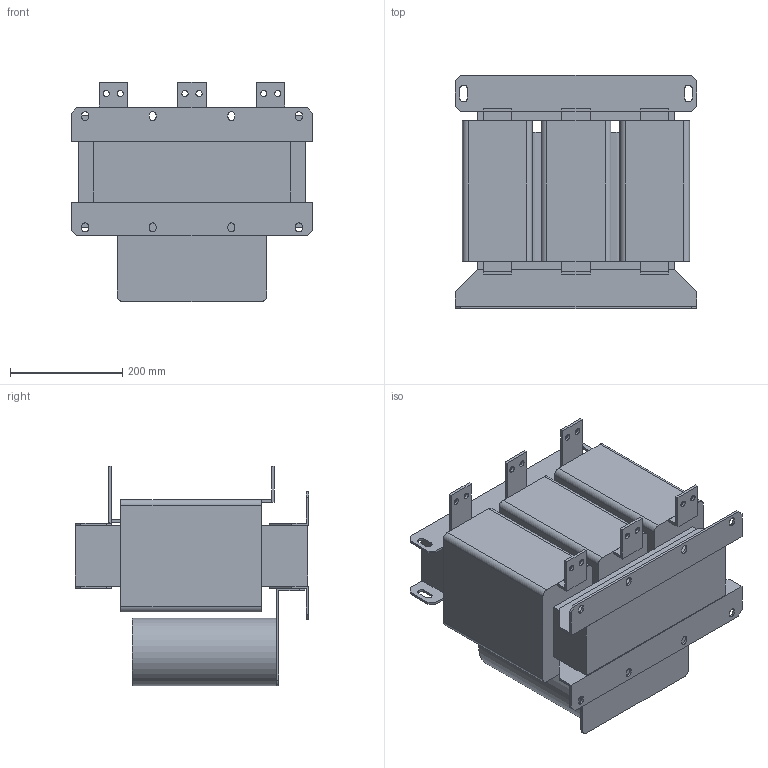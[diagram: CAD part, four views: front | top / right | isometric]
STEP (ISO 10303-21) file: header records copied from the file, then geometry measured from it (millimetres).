
FILE_DESCRIPTION(/* description */ (''),/* implementation_level */ '2;1');
FILE_NAME(/* name */ 'Sin-T4-410.stp',/* time_stamp */ '2025-03-10T16:12:06+04:00',/* author */ ('Лео'),/* organization */ (''),/* preprocessor_version */ 'ST-DEVELOPER v19.2',/* originating_system */ 'Autodesk Inventor 2024',/* authorisation */ '');
FILE_SCHEMA (('AUTOMOTIVE_DESIGN { 1 0 10303 214 3 1 1 }'));
Length unit declared in the file: millimetre
Products named in the file (1): Sin-T4-004
Bounding box: 430 x 415 x 390 mm (x, y, z)
Volume: 31517081 mm3; surface area: 1686696.5 mm2
Topology: 24 solids, 24 shells, 236 faces, 564 edges, 376 vertices
Faces by surface type: plane 182, cylinder 54
Full cylindrical faces by diameter (mm): 11 x12, 120 x2
Entity records: 6912 total; most frequent: CARTESIAN_POINT 1177, DIRECTION 1146, ORIENTED_EDGE 1128, EDGE_CURVE 564, LINE 456, VECTOR 456, VERTEX_POINT 376, AXIS2_PLACEMENT_3D 345
